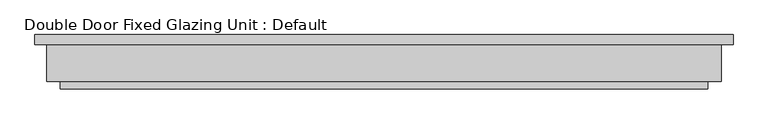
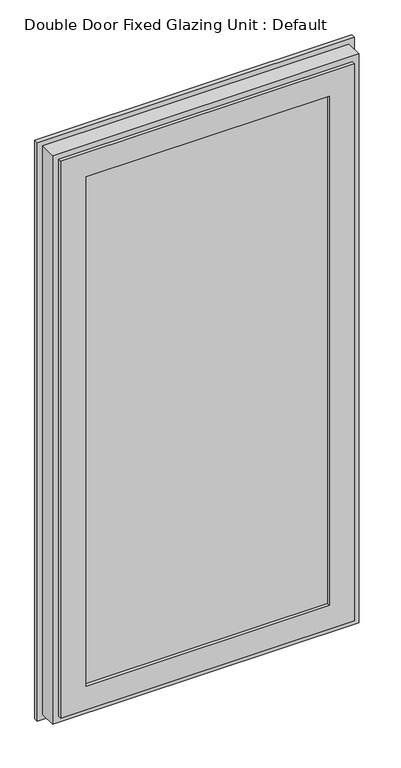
"""IFC4 building model written with IfcOpenShell, lengths in millimetres: proxy geometry, Double Door Fixed Glazing Unit : Default."""

from ifc_helpers import new_model, si_unit, frame, origin, place, context, project, spatial, polyline, outline, extrude, faceted_brep, source, transform, mapped, element, save


def double_door_fixed_glazing_unit_default_5535939b(model_context):
    return source(origin(), model_context, "Body", "SolidModel", [
        extrude(outline(polyline([(-950.9125, -64.690625), (-95.25, -64.690625), (-95.25, -69.85), (-950.9125, -69.85), (-950.9125, -64.690625)])), frame((0.0, 0.0, 92.86875), z_axis=(0.0, 0.0, 1.0), x_axis=(1.0, 0.0, 0.0)), (0.0, 0.0, 1.0), 1820.8625),
        extrude(outline(polyline([(-950.9125, -41.275), (-95.25, -41.275), (-95.25, -46.434375), (-950.9125, -46.434375), (-950.9125, -41.275)])), frame((0.0, 0.0, 92.86875), z_axis=(0.0, 0.0, 1.0), x_axis=(1.0, 0.0, 0.0)), (0.0, 0.0, 1.0), 1820.8625),
        faceted_brep([(-920.75, -41.275, 123.03125), (-125.4125, -41.275, 123.03125), (-120.65, 0.0, 118.26875), (-925.5125, 0.0, 118.26875), (-950.9125, -20.6375, 92.86875), (-95.25, -20.6375, 92.86875), (-119.0625, -41.275, 116.68125), (-927.1, -41.275, 116.68125), (-950.9125, -1.5875, 92.86875), (-95.25, -1.5875, 92.86875), (-960.4375, 0.0, 83.34375), (-85.725, 0.0, 83.34375), (-85.725, -1.5875, 83.34375), (-960.4375, -1.5875, 83.34375), (-125.4125, -41.275, 1883.56875), (-120.65, 0.0, 1888.33125), (-95.25, -20.6375, 1913.73125), (-119.0625, -41.275, 1889.91875), (-95.25, -1.5875, 1913.73125), (-85.725, 0.0, 1923.25625), (-85.725, -1.5875, 1923.25625), (-920.75, -41.275, 1883.56875), (-925.5125, 0.0, 1888.33125), (-950.9125, -20.6375, 1913.73125), (-927.1, -41.275, 1889.91875), (-950.9125, -1.5875, 1913.73125), (-960.4375, 0.0, 1923.25625), (-960.4375, -1.5875, 1923.25625)], [[[0, 1, 2, 3]], [[4, 5, 6, 7]], [[8, 9, 5, 4]], [[10, 11, 12, 13]], [[1, 14, 15, 2]], [[5, 16, 17, 6]], [[9, 18, 16, 5]], [[11, 19, 20, 12]], [[14, 21, 22, 15]], [[16, 23, 24, 17]], [[18, 25, 23, 16]], [[19, 26, 27, 20]], [[21, 0, 3, 22]], [[7, 6, 17, 24], [1, 0, 21, 14]], [[23, 4, 7, 24]], [[25, 8, 4, 23]], [[13, 12, 20, 27], [9, 8, 25, 18]], [[26, 10, 13, 27]], [[11, 10, 26, 19], [3, 2, 15, 22]]]),
        faceted_brep([(-3.175, 0.0, 2005.80625), (-1042.9875, 0.0, 2005.80625), (-1042.9875, -14.2875, 2005.80625), (-3.175, -14.2875, 2005.80625), (-85.725, -14.2875, 1923.25625), (-960.4375, -14.2875, 1923.25625), (-960.4375, 0.0, 1923.25625), (-85.725, 0.0, 1923.25625), (-95.25, -69.85, 1913.73125), (-950.9125, -69.85, 1913.73125), (-950.9125, -14.2875, 1913.73125), (-95.25, -14.2875, 1913.73125), (-123.825, -80.9625, 1885.15625), (-922.3375, -80.9625, 1885.15625), (-922.3375, -69.85, 1885.15625), (-123.825, -69.85, 1885.15625), (-41.275, -69.85, 1967.70625), (-1004.8875, -69.85, 1967.70625), (-1004.8875, -80.9625, 1967.70625), (-41.275, -80.9625, 1967.70625), (-20.6375, -14.2875, 1988.34375), (-1025.525, -14.2875, 1988.34375), (-1025.525, -69.85, 1988.34375), (-20.6375, -69.85, 1988.34375), (-1042.9875, 0.0, 0.79375), (-1042.9875, -14.2875, 0.79375), (-960.4375, -14.2875, 83.34375), (-960.4375, 0.0, 83.34375), (-950.9125, -69.85, 92.86875), (-950.9125, -14.2875, 92.86875), (-922.3375, -80.9625, 121.44375), (-922.3375, -69.85, 121.44375), (-1004.8875, -69.85, 38.89375), (-1004.8875, -80.9625, 38.89375), (-1025.525, -14.2875, 18.25625), (-1025.525, -69.85, 18.25625), (-3.175, 0.0, 0.79375), (-3.175, -14.2875, 0.79375), (-85.725, -14.2875, 83.34375), (-85.725, 0.0, 83.34375), (-95.25, -69.85, 92.86875), (-95.25, -14.2875, 92.86875), (-123.825, -80.9625, 121.44375), (-123.825, -69.85, 121.44375), (-41.275, -69.85, 38.89375), (-41.275, -80.9625, 38.89375), (-20.6375, -14.2875, 18.25625), (-20.6375, -69.85, 18.25625)], [[[0, 1, 2, 3]], [[4, 5, 6, 7]], [[8, 9, 10, 11]], [[12, 13, 14, 15]], [[16, 17, 18, 19]], [[20, 21, 22, 23]], [[1, 24, 25, 2]], [[5, 26, 27, 6]], [[9, 28, 29, 10]], [[13, 30, 31, 14]], [[17, 32, 33, 18]], [[21, 34, 35, 22]], [[24, 36, 37, 25]], [[26, 38, 39, 27]], [[28, 40, 41, 29]], [[30, 42, 43, 31]], [[32, 44, 45, 33]], [[34, 46, 47, 35]], [[36, 0, 3, 37]], [[1, 0, 36, 24], [7, 6, 27, 39]], [[38, 4, 7, 39]], [[5, 4, 38, 26], [11, 10, 29, 41]], [[40, 8, 11, 41]], [[9, 8, 40, 28], [15, 14, 31, 43]], [[42, 12, 15, 43]], [[19, 18, 33, 45], [13, 12, 42, 30]], [[44, 16, 19, 45]], [[23, 22, 35, 47], [17, 16, 44, 32]], [[46, 20, 23, 47]], [[3, 2, 25, 37], [21, 20, 46, 34]]]),
    ])


if __name__ == "__main__":
    model = new_model("IFC4")
    model_context = context("Model", 3, world=origin())
    ifc_project = project(units=[si_unit("LENGTHUNIT", "METRE", prefix="MILLI")], contexts=[model_context])
    site = spatial("IfcSite", under=ifc_project)
    building = spatial("IfcBuilding", under=site)
    placement = place(None, origin())
    double_door_fixed_glazing_unit_default_shape = double_door_fixed_glazing_unit_default_5535939b(model_context)
    element("IfcBuildingElementProxy", 1, Name="Double Door Fixed Glazing Unit : Default", ObjectType="Double Door Fixed Glazing Unit : Default", at=placement, inside=building, context=model_context, shape_type="MappedRepresentation", body=[
        mapped(double_door_fixed_glazing_unit_default_shape, transform((0.0, 0.0, 0.0), x_axis=(1.0, 0.0, 0.0), y_axis=(0.0, 1.0, 0.0), z_axis=(0.0, 0.0, 1.0))),
    ])
    save(model, "model.ifc")
